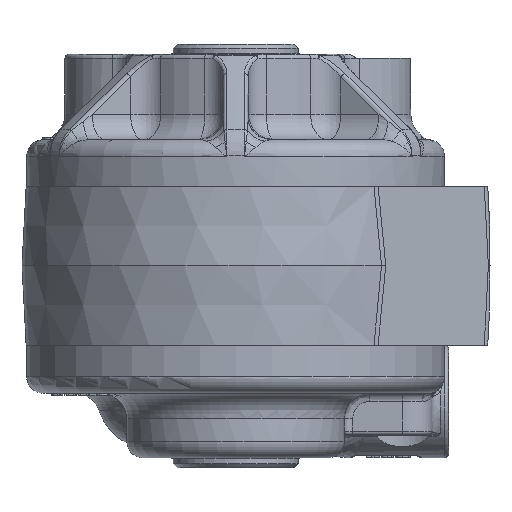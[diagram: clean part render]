
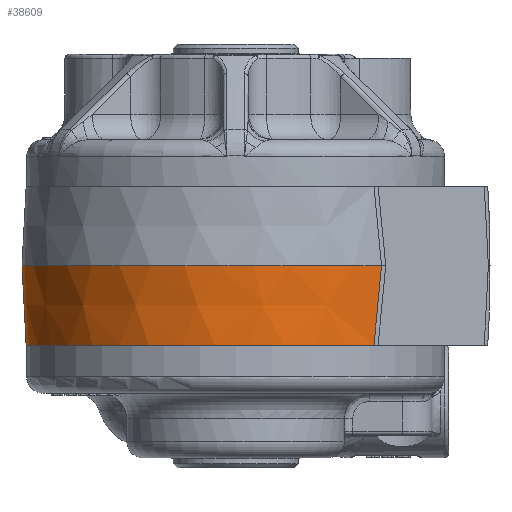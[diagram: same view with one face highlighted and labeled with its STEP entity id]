
A CAD part, front view. The second image highlights one B-rep face of the part: STEP entity #38609.
In plain terms, the highlighted conical face has half-angle 3 degrees and reference radius 81.28 mm.
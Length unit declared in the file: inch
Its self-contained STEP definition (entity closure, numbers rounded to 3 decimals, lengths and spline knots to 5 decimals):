
#37892=CARTESIAN_POINT('',(2.07198,-2.35637,-1.1875));
#37893=VERTEX_POINT('',#37892);
#37904=CARTESIAN_POINT('',(-3.09388,0.52296,-1.1875));
#37905=VERTEX_POINT('',#37904);
#37906=CARTESIAN_POINT('',(0.0,0.0,-1.1875));
#37907=DIRECTION('',(0.0,0.0,-1.0));
#37908=DIRECTION('',(-0.986,0.167,0.0));
#37909=AXIS2_PLACEMENT_3D('',#37906,#37907,#37908);
#37910=CIRCLE('',#37909,3.13777);
#37911=EDGE_CURVE('',#37893,#37905,#37910,.T.);
#38566=CARTESIAN_POINT('',(-3.15524,0.53333,0.0));
#38567=VERTEX_POINT('',#38566);
#38568=CARTESIAN_POINT('',(-3.09388,0.52296,-1.1875));
#38569=DIRECTION('',(-0.052,0.009,0.999));
#38570=VECTOR('',#38569,1.18913);
#38571=LINE('',#38568,#38570);
#38572=EDGE_CURVE('',#37905,#38567,#38571,.T.);
#38584=CARTESIAN_POINT('',(0.0,0.0,0.0));
#38585=DIRECTION('',(0.0,0.0,1.0));
#38586=DIRECTION('',(-0.986,0.167,0.0));
#38587=AXIS2_PLACEMENT_3D('',#38584,#38585,#38586);
#38588=CONICAL_SURFACE('',#38587,3.2,3.0);
#38589=ORIENTED_EDGE('',*,*,#37911,.F.);
#38590=CARTESIAN_POINT('',(2.18425,-2.3386,0.));
#38591=VERTEX_POINT('',#38590);
#38592=CARTESIAN_POINT('',(2.18425,-2.3386,0.));
#38593=CARTESIAN_POINT('',(2.14765,-2.34439,-0.39592));
#38594=CARTESIAN_POINT('',(2.11028,-2.35031,-0.79176));
#38595=CARTESIAN_POINT('',(2.07198,-2.35637,-1.1875));
#38596=B_SPLINE_CURVE_WITH_KNOTS('',3,(#38592,#38593,#38594,#38595),.UNSPECIFIED.,.F.,.U.,(4,4),(3.60348,6.63429),.UNSPECIFIED.);
#38597=EDGE_CURVE('',#38591,#37893,#38596,.T.);
#38598=ORIENTED_EDGE('',*,*,#38597,.F.);
#38599=CARTESIAN_POINT('',(0.0,0.0,0.0));
#38600=DIRECTION('',(0.0,0.0,1.0));
#38601=DIRECTION('',(-0.986,0.167,0.0));
#38602=AXIS2_PLACEMENT_3D('',#38599,#38600,#38601);
#38603=CIRCLE('',#38602,3.2);
#38604=EDGE_CURVE('',#38567,#38591,#38603,.T.);
#38605=ORIENTED_EDGE('',*,*,#38604,.F.);
#38606=ORIENTED_EDGE('',*,*,#38572,.F.);
#38607=EDGE_LOOP('',(#38589,#38598,#38605,#38606));
#38608=FACE_OUTER_BOUND('',#38607,.T.);
#38609=ADVANCED_FACE('',(#38608),#38588,.T.);
